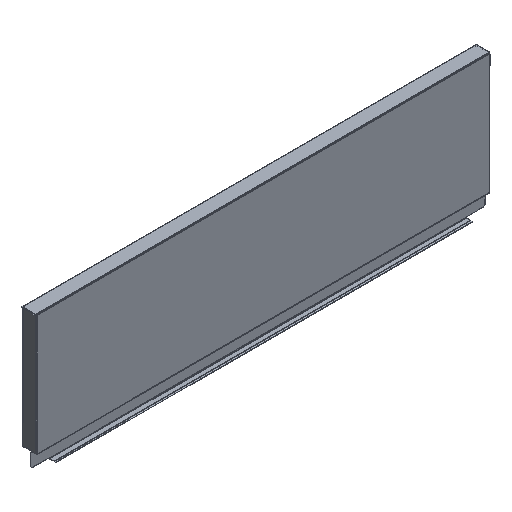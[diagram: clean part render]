
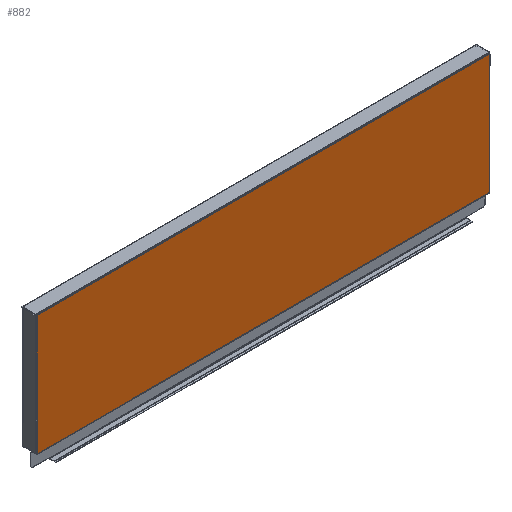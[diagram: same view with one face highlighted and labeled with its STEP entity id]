
A CAD part, isometric view. The second image highlights one B-rep face of the part: STEP entity #882.
In plain terms, the highlighted planar face has unit normal (0, -1, 0).
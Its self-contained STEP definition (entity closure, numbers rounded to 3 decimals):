
#6 = EDGE_CURVE ( 'NONE', #432, #30, #1981, .T. ) ;
#7 = EDGE_CURVE ( 'NONE', #503, #432, #1983, .T. ) ;
#8 = EDGE_CURVE ( 'NONE', #512, #503, #1985, .T. ) ;
#30 = VERTEX_POINT ( 'NONE', #417 ) ;
#42 = VERTEX_POINT ( 'NONE', #414 ) ;
#47 = VERTEX_POINT ( 'NONE', #413 ) ;
#251 = DIRECTION ( 'NONE',  ( 0., 0., -1. ) ) ;
#252 = CARTESIAN_POINT ( 'NONE',  ( -254., -6., 170.385 ) ) ;
#258 = DIRECTION ( 'NONE',  ( 0., 0., -1. ) ) ;
#259 = CARTESIAN_POINT ( 'NONE',  ( -253.5, -6., 17.5 ) ) ;
#262 = DIRECTION ( 'NONE',  ( 1., 0., 0. ) ) ;
#263 = CARTESIAN_POINT ( 'NONE',  ( -255., -6., 17.5 ) ) ;
#281 = CARTESIAN_POINT ( 'NONE',  ( -253.5, -6., 17.5 ) ) ;
#294 = CARTESIAN_POINT ( 'NONE',  ( -254., -6., 152. ) ) ;
#303 = CARTESIAN_POINT ( 'NONE',  ( 253.5, -6., 17.5 ) ) ;
#304 = CARTESIAN_POINT ( 'NONE',  ( 254., -6., 152. ) ) ;
#317 = CARTESIAN_POINT ( 'NONE',  ( -254., -6., 17.5 ) ) ;
#350 = CARTESIAN_POINT ( 'NONE',  ( -253.5, -6., 17. ) ) ;
#356 = CARTESIAN_POINT ( 'NONE',  ( 254., -6., 151.5 ) ) ;
#413 = CARTESIAN_POINT ( 'NONE',  ( -254., -6., 151.5 ) ) ;
#414 = CARTESIAN_POINT ( 'NONE',  ( 253.5, -6., 17. ) ) ;
#417 = CARTESIAN_POINT ( 'NONE',  ( 254., -6., 17.5 ) ) ;
#426 = DIRECTION ( 'NONE',  ( 1., 0., 0. ) ) ;
#427 = CARTESIAN_POINT ( 'NONE',  ( -255., -6., 152. ) ) ;
#428 = DIRECTION ( 'NONE',  ( 0., 0., -1. ) ) ;
#429 = CARTESIAN_POINT ( 'NONE',  ( 254., -6., 170.385 ) ) ;
#430 = DIRECTION ( 'NONE',  ( 0., 0., -1. ) ) ;
#431 = CARTESIAN_POINT ( 'NONE',  ( 254., -6., 170.385 ) ) ;
#432 = VERTEX_POINT ( 'NONE', #356 ) ;
#437 = VERTEX_POINT ( 'NONE', #350 ) ;
#484 = VERTEX_POINT ( 'NONE', #317 ) ;
#503 = VERTEX_POINT ( 'NONE', #304 ) ;
#504 = VERTEX_POINT ( 'NONE', #303 ) ;
#512 = VERTEX_POINT ( 'NONE', #294 ) ;
#522 = VERTEX_POINT ( 'NONE', #281 ) ;
#536 = EDGE_CURVE ( 'NONE', #484, #522, #1990, .T. ) ;
#537 = EDGE_CURVE ( 'NONE', #522, #437, #1992, .T. ) ;
#539 = EDGE_CURVE ( 'NONE', #47, #484, #1996, .T. ) ;
#694 = EDGE_CURVE ( 'NONE', #512, #47, #2276, .T. ) ;
#787 = AXIS2_PLACEMENT_3D ( 'NONE', #1284, #1283, #1282 ) ;
#882 = ADVANCED_FACE ( 'NONE', ( #2366 ), #1285, .T. ) ;
#1075 = EDGE_LOOP ( 'NONE', ( #1971, #1970, #1969, #1968, #1967, #1966, #1965, #1964, #1963, #1962 ) ) ;
#1282 = DIRECTION ( 'NONE',  ( 1., 0., 0. ) ) ;
#1283 = DIRECTION ( 'NONE',  ( 0., -1., 0. ) ) ;
#1284 = CARTESIAN_POINT ( 'NONE',  ( -255., -6., 17. ) ) ;
#1285 = PLANE ( 'NONE',  #787 ) ;
#1364 = CARTESIAN_POINT ( 'NONE',  ( -255., -6., 17. ) ) ;
#1365 = DIRECTION ( 'NONE',  ( 1., 0., 0. ) ) ;
#1366 = CARTESIAN_POINT ( 'NONE',  ( 253.5, -6., 15.3 ) ) ;
#1367 = DIRECTION ( 'NONE',  ( 0., 0., 1. ) ) ;
#1368 = CARTESIAN_POINT ( 'NONE',  ( 253.5, -6., 17.5 ) ) ;
#1369 = DIRECTION ( 'NONE',  ( 1., 0., 0. ) ) ;
#1415 = EDGE_CURVE ( 'NONE', #437, #42, #2444, .T. ) ;
#1416 = EDGE_CURVE ( 'NONE', #42, #504, #2446, .T. ) ;
#1417 = EDGE_CURVE ( 'NONE', #504, #30, #2448, .T. ) ;
#1552 = DIRECTION ( 'NONE',  ( 0., 0., -1. ) ) ;
#1553 = CARTESIAN_POINT ( 'NONE',  ( -254., -6., 170.385 ) ) ;
#1962 = ORIENTED_EDGE ( 'NONE', *, *, #694, .T. ) ;
#1963 = ORIENTED_EDGE ( 'NONE', *, *, #8, .F. ) ;
#1964 = ORIENTED_EDGE ( 'NONE', *, *, #7, .F. ) ;
#1965 = ORIENTED_EDGE ( 'NONE', *, *, #6, .F. ) ;
#1966 = ORIENTED_EDGE ( 'NONE', *, *, #1417, .T. ) ;
#1967 = ORIENTED_EDGE ( 'NONE', *, *, #1416, .T. ) ;
#1968 = ORIENTED_EDGE ( 'NONE', *, *, #1415, .T. ) ;
#1969 = ORIENTED_EDGE ( 'NONE', *, *, #537, .T. ) ;
#1970 = ORIENTED_EDGE ( 'NONE', *, *, #536, .T. ) ;
#1971 = ORIENTED_EDGE ( 'NONE', *, *, #539, .T. ) ;
#1981 = LINE ( 'NONE', #431, #1982 ) ;
#1982 = VECTOR ( 'NONE', #430, 1000. ) ;
#1983 = LINE ( 'NONE', #429, #1984 ) ;
#1984 = VECTOR ( 'NONE', #428, 1000. ) ;
#1985 = LINE ( 'NONE', #427, #1986 ) ;
#1986 = VECTOR ( 'NONE', #426, 1000. ) ;
#1990 = LINE ( 'NONE', #263, #1991 ) ;
#1991 = VECTOR ( 'NONE', #262, 1000. ) ;
#1992 = LINE ( 'NONE', #259, #1993 ) ;
#1993 = VECTOR ( 'NONE', #258, 1000. ) ;
#1996 = LINE ( 'NONE', #252, #1997 ) ;
#1997 = VECTOR ( 'NONE', #251, 1000. ) ;
#2276 = LINE ( 'NONE', #1553, #2277 ) ;
#2277 = VECTOR ( 'NONE', #1552, 1000. ) ;
#2366 = FACE_OUTER_BOUND ( 'NONE', #1075, .T. ) ;
#2444 = LINE ( 'NONE', #1364, #2445 ) ;
#2445 = VECTOR ( 'NONE', #1365, 1000. ) ;
#2446 = LINE ( 'NONE', #1366, #2447 ) ;
#2447 = VECTOR ( 'NONE', #1367, 1000. ) ;
#2448 = LINE ( 'NONE', #1368, #2449 ) ;
#2449 = VECTOR ( 'NONE', #1369, 1000. ) ;
